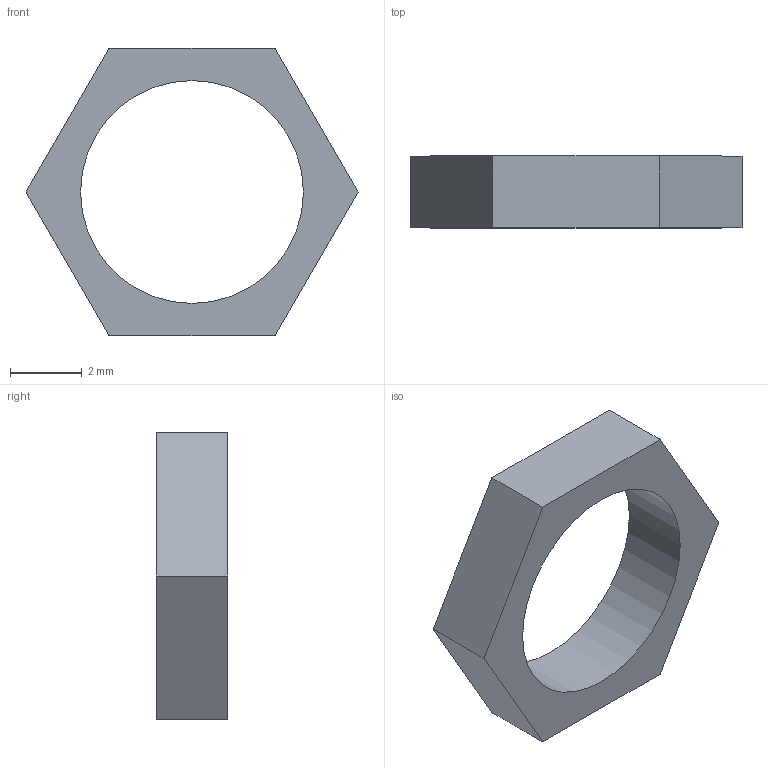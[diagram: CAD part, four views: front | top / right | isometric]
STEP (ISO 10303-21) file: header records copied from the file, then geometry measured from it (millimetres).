
FILE_DESCRIPTION(('Open CASCADE Model'),'2;1');
FILE_NAME('Open CASCADE Shape Model','2026-10-01T12:35:22',('Author'),( 'Open CASCADE'),'Open CASCADE STEP processor 7.8','Open CASCADE 7.8' ,'Unknown');
FILE_SCHEMA(('AUTOMOTIVE_DESIGN { 1 0 10303 214 1 1 1 1 }'));
Length unit declared in the file: millimetre
Products named in the file (2): H96_Toggle_nut_provisional; H96_Toggle_nut_provisional_solid
Assembly tree (1 placements, depth 2):
  H96_Toggle_nut_provisional
    H96_Toggle_nut_provisional_solid
Bounding box: 9.24 x 2 x 8 mm (x, y, z)
Volume: 50.5 mm3; surface area: 144.9 mm2
Topology: 1 solids, 1 shells, 9 faces, 21 edges, 14 vertices
Faces by surface type: plane 8, cylinder 1
Full cylindrical faces by diameter (mm): 6.2 x1
Entity records: 577 total; most frequent: CARTESIAN_POINT 100, DIRECTION 85, LINE 59, VECTOR 59, ORIENTED_EDGE 42, PCURVE 42, DEFINITIONAL_REPRESENTATION 42, EDGE_CURVE 21
